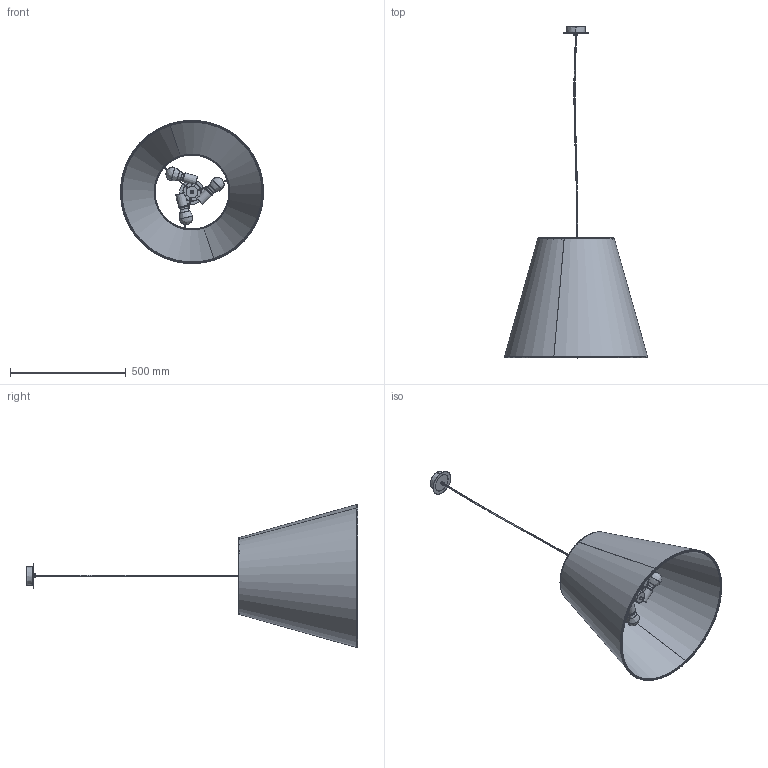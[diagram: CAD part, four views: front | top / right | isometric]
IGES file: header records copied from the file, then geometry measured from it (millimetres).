
Start section: SolidWorks IGES file using analytic representation for surfaces
Global section: file name: Z:\Modele 3D_WWW\_KOLEKCJE_WWW\MOSS-9737\MOSS-9737.IGS; native system: SolidWorks 2020; preprocessor: SolidWorks 2020; author: gabriela.tworek; date: 210426.120654; units: millimetre
Bounding box: 618.31 x 1434.06 x 618.38 mm (x, y, z)
Surface area: 1877974.2 mm2 (no closed solid volume)
Topology: 0 solids, 0 shells, 521 faces, 7650 edges, 7587 vertices
Faces by surface type: bspline 281, revolution 240
